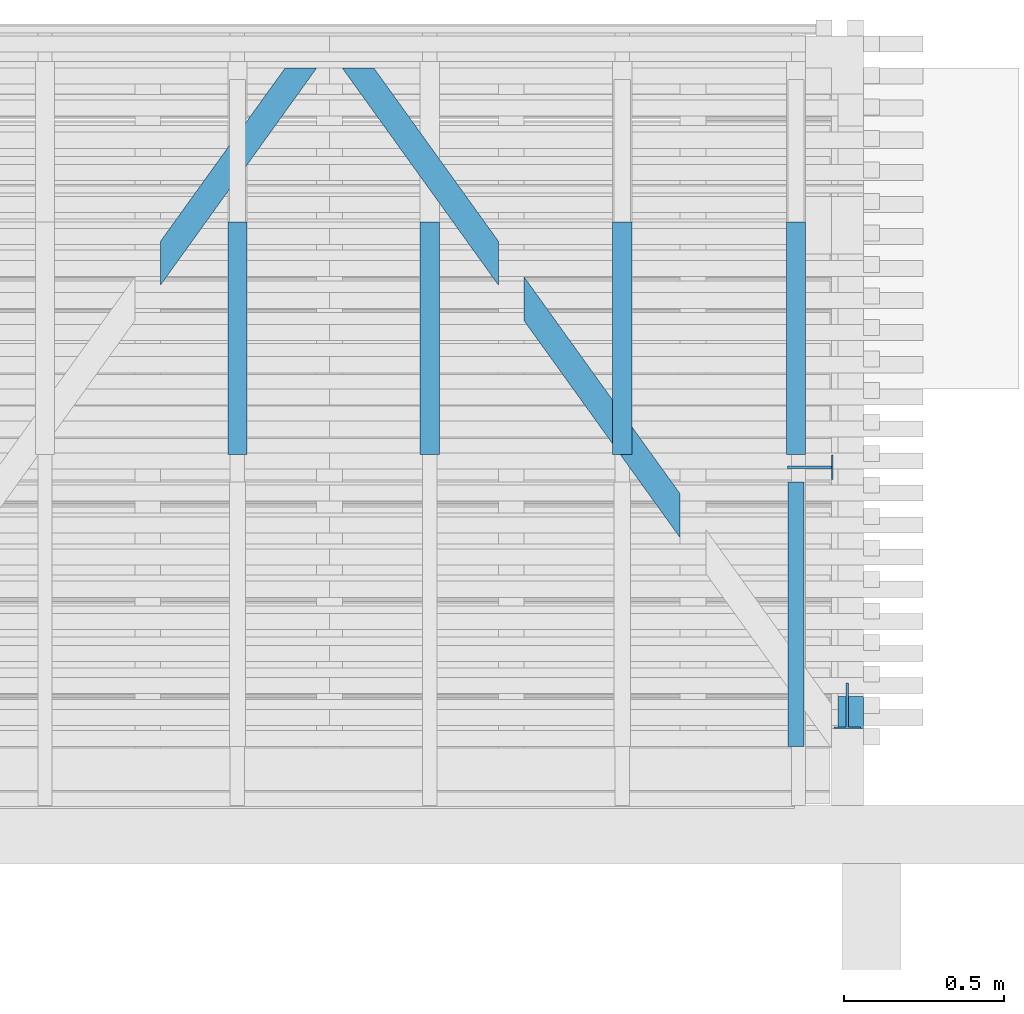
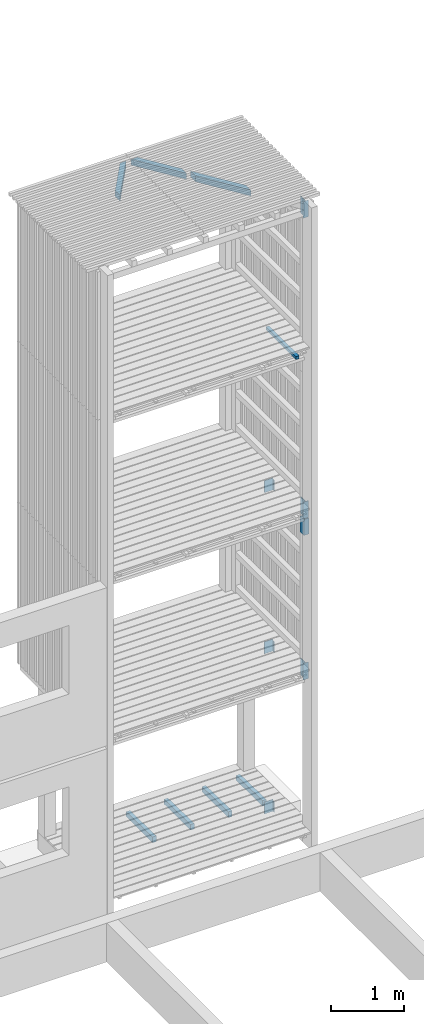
# One storey, part 169 of 182: 15 beams.
"""IFC2X3 building model written with IfcOpenShell, lengths in metres."""

import ifcopenshell
import ifcopenshell.guid

model = None  # the IFC model being written
_history = None  # IfcOwnerHistory: only IFC2X3 demands one
_inside = {}  # id of a spatial element -> (the spatial element, [elements in it])
_under = {}  # id of a project, library or spatial element -> (it, [spatial elements below it])
_declared = {}  # id of a project -> (the project, [libraries it declares])
_typed = {}  # id of a type object -> (the type object, [elements of that type])
_made_of = {}  # id of a material, layer set ... -> (it, [elements and type objects made of it])


def new_model(schema):
    """Start an empty IFC model of exactly this schema.

    Asked for "IFC4X3", IfcOpenShell would pick the latest addendum, in which some entities
    have other attributes; the version numbers below select the first issue.
    IFC2X3 requires an IfcOwnerHistory on every rooted entity: one is made here for all.
    """
    global model, _history
    if schema == "IFC4X3":
        model = ifcopenshell.file(schema_version=(4, 3, 0, 0))
    else:
        model = ifcopenshell.file(schema=schema)
    _inside.clear()
    _under.clear()
    _declared.clear()
    _typed.clear()
    _made_of.clear()
    _history = None
    if model.schema == "IFC2X3":
        org = make("IfcOrganization", Name="unknown")
        user = make(
            "IfcPersonAndOrganization",
            ThePerson=make("IfcPerson", FamilyName="unknown"),
            TheOrganization=org,
        )
        app = make(
            "IfcApplication",
            ApplicationDeveloper=org,
            Version="unknown",
            ApplicationFullName="unknown",
            ApplicationIdentifier="unknown",
        )
        _history = make(
            "IfcOwnerHistory",
            OwningUser=user,
            OwningApplication=app,
            ChangeAction="ADDED",
            CreationDate=0,
        )
    return model


def make(cls, **values):
    """One entity of the class cls with the attributes given. An attribute that is None is left unset."""
    return model.create_entity(
        cls, **{name: value for name, value in values.items() if value is not None}
    )


def rooted(cls, **values):
    """An entity with a GlobalId (a new one), such as an element, a storey or a relation."""
    return make(cls, GlobalId=ifcopenshell.guid.new(), OwnerHistory=_history, **values)


def si_unit(unit_type, name, prefix=None):
    """IfcSIUnit, for example si_unit("LENGTHUNIT", "METRE", prefix="MILLI")."""
    return make("IfcSIUnit", UnitType=unit_type, Prefix=prefix, Name=name)


def assignment(units):
    """IfcUnitAssignment: the units of a project."""
    return None if units is None else make("IfcUnitAssignment", Units=units)


def point(xyz):
    """IfcCartesianPoint."""
    return None if xyz is None else make("IfcCartesianPoint", Coordinates=xyz)


def direction(xyz):
    """IfcDirection."""
    return None if xyz is None else make("IfcDirection", DirectionRatios=xyz)


def frame(location, z_axis=None, x_axis=None):
    """IfcAxis2Placement3D, a coordinate frame: its origin and axes. An axis left out is left unset."""
    return make(
        "IfcAxis2Placement3D",
        Location=point(location),
        Axis=direction(z_axis),
        RefDirection=direction(x_axis),
    )


def origin():
    """The frame at (0, 0, 0) with its axes left unset."""
    return frame((0.0, 0.0, 0.0))


def place(relative_to, where):
    """IfcLocalPlacement: puts the frame where relative to a parent placement (None: the world)."""
    return make(
        "IfcLocalPlacement", PlacementRelTo=relative_to, RelativePlacement=where
    )


def context(
    kind, dimensions, precision=None, world=None, true_north=None, identifier=None
):
    """IfcGeometricRepresentationContext, for example the 3D "Model" context."""
    return make(
        "IfcGeometricRepresentationContext",
        ContextIdentifier=identifier,
        ContextType=kind,
        CoordinateSpaceDimension=dimensions,
        Precision=precision,
        WorldCoordinateSystem=world,
        TrueNorth=true_north,
    )


def project(units=None, contexts=None):
    """IfcProject with its units and contexts."""
    return rooted(
        "IfcProject",
        Name="project",
        RepresentationContexts=contexts,
        UnitsInContext=assignment(units),
    )


def spatial(cls, under=None, at=None, **own):
    """A site, building, storey or space (cls), placed at a placement, below another one or the project."""
    s = rooted(cls, ObjectPlacement=at, **own)
    if under is not None:
        _under.setdefault(under.id(), (under, []))[1].append(s)
    return s


def faces_of(points, faces, orient=None, outer=None):
    """IfcFace entities. A face is a list of loops; a loop is a list of indices into points, from 0.

    orient and outer hold one flag for each loop. By default every Orientation is true, the
    first loop of a face is its IfcFaceOuterBound and the others are IfcFaceBound.
    """
    made = []
    for i, loops in enumerate(faces):
        bounds = []
        for j, loop in enumerate(loops):
            is_outer = j == 0 if outer is None else outer[i][j]
            bounds.append(
                make(
                    "IfcFaceOuterBound" if is_outer else "IfcFaceBound",
                    Bound=make("IfcPolyLoop", Polygon=[points[k] for k in loop]),
                    Orientation=True if orient is None else orient[i][j],
                )
            )
        made.append(make("IfcFace", Bounds=bounds))
    return made


def faceted_brep(points, faces, orient=None, outer=None, voids=None):
    """IfcFacetedBrep: a solid bounded by flat faces; with voids (closed shells), ...WithVoids."""
    shared = [point(p) for p in points]
    hull = make("IfcClosedShell", CfsFaces=faces_of(shared, faces, orient, outer))
    if voids is None:
        return make("IfcFacetedBrep", Outer=hull)
    return make(
        "IfcFacetedBrepWithVoids",
        Outer=hull,
        Voids=[
            make(cls, CfsFaces=faces_of(shared, fs, o, b)) for cls, fs, o, b in voids
        ],
    )


def shape(context_of_items, identifier, shape_type, items):
    """IfcShapeRepresentation: the items that make up one representation, for example the "Body"."""
    return make(
        "IfcShapeRepresentation",
        ContextOfItems=context_of_items,
        RepresentationIdentifier=identifier,
        RepresentationType=shape_type,
        Items=items,
    )


def made_of(thing, what):
    """Note that an element or type object is made of a material, layer set ...; save() writes the relation."""
    if what is not None:
        _made_of.setdefault(what.id(), (what, []))[1].append(thing)
    return thing


def element(
    cls,
    number,
    at=None,
    inside=None,
    cuts=None,
    type_object=None,
    material=None,
    context=None,
    identifier="Body",
    shape_type=None,
    held_by="IfcProductDefinitionShape",
    body=None,
    shapes=None,
    **own,
):
    """One element of the class cls, such as IfcWall. Its Tag is "e" and its number.

    at: its placement. inside: the storey or other place that contains it. cuts: it is an
    opening in that element (IfcRelVoidsElement). A single representation is given by context,
    identifier, shape_type and body (its items); several are given by shapes. held_by: the class
    of the entity that holds the representations. save() writes the other relations.
    """
    e = rooted(cls, Tag="e%d" % number, ObjectPlacement=at, **own)
    if body is not None:
        shapes = [shape(context, identifier, shape_type, body)]
    if shapes is not None:
        e.Representation = make(held_by, Representations=shapes)
    if inside is not None:
        _inside.setdefault(inside.id(), (inside, []))[1].append(e)
    if cuts is not None:
        rooted(
            "IfcRelVoidsElement", RelatingBuildingElement=cuts, RelatedOpeningElement=e
        )
    if type_object is not None:
        _typed.setdefault(type_object.id(), (type_object, []))[1].append(e)
    return made_of(e, material)


def aggregate(whole, parts):
    """IfcRelAggregates: a whole, such as a stair, and the parts it consists of."""
    return rooted("IfcRelAggregates", RelatingObject=whole, RelatedObjects=parts)


def save(model, path):
    """Write the relations noted so far, then the file.

    IfcRelAggregates (storeys below a building ...), IfcRelContainedInSpatialStructure (elements
    in a storey), IfcRelDefinesByType, IfcRelAssociatesMaterial and IfcRelDeclares: one each for
    every whole, place, type object, material and project.
    """
    for whole, parts in _under.values():
        aggregate(whole, parts)
    for where, things in _inside.values():
        rooted(
            "IfcRelContainedInSpatialStructure",
            RelatedElements=things,
            RelatingStructure=where,
        )
    for kind, things in _typed.values():
        rooted("IfcRelDefinesByType", RelatedObjects=things, RelatingType=kind)
    for what, things in _made_of.values():
        rooted("IfcRelAssociatesMaterial", RelatedObjects=things, RelatingMaterial=what)
    for by, libraries in _declared.values():
        rooted("IfcRelDeclares", RelatingContext=by, RelatedDefinitions=libraries)
    model.write(path)


model = new_model("IFC2X3")

# Units and contexts
model_context = context("Model", 3, precision=1e-06, world=origin())
ifc_project = project(units=[si_unit("LENGTHUNIT", "METRE"), si_unit("PLANEANGLEUNIT", "RADIAN")], contexts=[model_context])

# Site, building, storey
site = spatial("IfcSite", under=ifc_project, CompositionType="ELEMENT")
building = spatial("IfcBuilding", under=site, CompositionType="ELEMENT")
storey = spatial("IfcBuildingStorey", under=building, Name="vs", CompositionType="ELEMENT", Elevation=-0.85)

# Beams
placement = place(None, origin())
beam_1_placement = place(placement, frame((24.422999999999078, 11.565077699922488, -0.091949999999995), z_axis=(0.0, 0.0, 1.0), x_axis=(0.0, 1.0, 0.0)))
element("IfcBeam", 1, at=beam_1_placement, inside=storey, Name="Solive", context=model_context, shape_type="Brep", body=[
    faceted_brep([(0.0, -0.029999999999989, -0.04805), (0.0, 0.029999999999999, -0.04805), (0.725000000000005, 0.029999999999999, -0.04805), (0.725000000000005, -0.030000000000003, -0.04805), (0.725000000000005, -0.029999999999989, 0.033549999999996), (0.0, -0.029999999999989, 0.048049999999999), (0.0, -0.029999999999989, -0.04805), (0.725000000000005, -0.030000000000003, -0.04805), (0.0, -0.029999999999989, 0.048049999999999), (0.725000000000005, -0.029999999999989, 0.033549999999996), (0.725000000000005, 0.029999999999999, 0.033549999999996), (0.0, 0.029999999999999, 0.048049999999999), (0.0, -0.029999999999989, 0.048049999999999), (0.0, 0.029999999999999, 0.048049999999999), (0.0, 0.029999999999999, -0.04805), (0.0, -0.029999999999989, -0.04805), (0.0, 0.029999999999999, -0.04805), (0.0, 0.029999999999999, 0.048049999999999), (0.725000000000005, 0.029999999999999, 0.033549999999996), (0.725000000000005, 0.029999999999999, -0.04805), (0.725000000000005, -0.029999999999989, 0.033549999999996), (0.725000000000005, -0.030000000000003, -0.04805), (0.725000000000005, 0.029999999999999, -0.04805), (0.725000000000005, 0.029999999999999, 0.033549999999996)], [[[0, 1, 2, 3]], [[4, 5, 6, 7]], [[8, 9, 10, 11]], [[12, 13, 14, 15]], [[16, 17, 18, 19]], [[20, 21, 22, 23]]]),
])
beam_2_placement = place(placement, frame((24.1508617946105, 12.116889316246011, 10.404999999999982), z_axis=(0.0, 0.0, 1.0), x_axis=(0.583951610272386, 0.811788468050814, 0.0)))
element("IfcBeam", 2, at=beam_2_placement, inside=storey, Name="Support bardage", context=model_context, shape_type="Brep", body=[
    faceted_brep([(0.775855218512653, 0.039999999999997, -0.050000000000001), (0.775855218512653, 0.039999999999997, 0.050000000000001), (0.833402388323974, -0.040000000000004, 0.050000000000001), (0.833402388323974, -0.040000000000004, -0.049999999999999), (0.833402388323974, -0.040000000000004, -0.049999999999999), (0.833402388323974, -0.040000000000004, 0.050000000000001), (4e-15, -0.040000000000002, 0.050000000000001), (4e-15, -0.040000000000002, -0.050000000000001), (0.775855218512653, 0.039999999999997, -0.050000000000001), (0.833402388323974, -0.040000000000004, -0.049999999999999), (4e-15, -0.040000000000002, -0.050000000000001), (0.111213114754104, 0.039999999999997, -0.050000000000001), (0.775855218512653, 0.039999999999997, 0.050000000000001), (0.775855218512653, 0.039999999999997, -0.050000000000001), (0.111213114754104, 0.039999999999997, -0.050000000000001), (0.111213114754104, 0.039999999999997, 0.050000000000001), (0.833402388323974, -0.040000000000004, 0.050000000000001), (0.775855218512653, 0.039999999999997, 0.050000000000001), (0.111213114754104, 0.039999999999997, 0.050000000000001), (4e-15, -0.040000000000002, 0.050000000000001), (0.111213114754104, 0.039999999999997, -0.050000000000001), (4e-15, -0.040000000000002, -0.050000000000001), (4e-15, -0.040000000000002, 0.050000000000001), (0.111213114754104, 0.039999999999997, 0.050000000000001)], [[[0, 1, 2, 3]], [[4, 5, 6, 7]], [[8, 9, 10, 11]], [[12, 13, 14, 15]], [[16, 17, 18, 19]], [[20, 21, 22, 23]]]),
])
beam_3_placement = place(placement, frame((25.622999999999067, 11.565077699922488, -0.091949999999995), z_axis=(0.0, 0.0, 1.0), x_axis=(0.0, 1.0, 0.0)))
element("IfcBeam", 3, at=beam_3_placement, inside=storey, Name="Solive", context=model_context, shape_type="Brep", body=[
    faceted_brep([(0.0, -0.029999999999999, -0.04805), (0.0, 0.030000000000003, -0.04805), (0.725000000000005, 0.030000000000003, -0.04805), (0.725000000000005, -0.029999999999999, -0.04805), (0.725000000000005, -0.029999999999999, 0.033549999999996), (0.0, -0.029999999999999, 0.048049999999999), (0.0, -0.029999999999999, -0.04805), (0.725000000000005, -0.029999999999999, -0.04805), (0.0, -0.029999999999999, 0.048049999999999), (0.725000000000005, -0.029999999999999, 0.033549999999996), (0.725000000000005, 0.030000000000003, 0.033549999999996), (0.0, 0.030000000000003, 0.048049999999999), (0.0, -0.029999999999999, 0.048049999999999), (0.0, 0.030000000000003, 0.048049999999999), (0.0, 0.030000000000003, -0.04805), (0.0, -0.029999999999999, -0.04805), (0.0, 0.030000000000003, -0.04805), (0.0, 0.030000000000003, 0.048049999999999), (0.725000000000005, 0.030000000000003, 0.033549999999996), (0.725000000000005, 0.030000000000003, -0.04805), (0.725000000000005, -0.029999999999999, 0.033549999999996), (0.725000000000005, -0.029999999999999, -0.04805), (0.725000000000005, 0.030000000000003, -0.04805), (0.725000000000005, 0.030000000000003, 0.033549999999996)], [[[0, 1, 2, 3]], [[4, 5, 6, 7]], [[8, 9, 10, 11]], [[12, 13, 14, 15]], [[16, 17, 18, 19]], [[20, 21, 22, 23]]]),
])
beam_4_placement = place(placement, frame((26.16499999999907, 11.565077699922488, -0.091949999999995), z_axis=(0.0, 0.0, 1.0), x_axis=(0.0, 1.0, 0.0)))
element("IfcBeam", 4, at=beam_4_placement, inside=storey, Name="Solive", context=model_context, shape_type="Brep", body=[
    faceted_brep([(0.0, -0.03, -0.04805), (0.0, 0.030000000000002, -0.04805), (0.725000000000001, 0.030000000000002, -0.04805), (0.725000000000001, -0.03, -0.04805), (0.725000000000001, -0.03, 0.033549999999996), (0.0, -0.03, 0.048049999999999), (0.0, -0.03, -0.04805), (0.725000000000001, -0.03, -0.04805), (0.0, -0.03, 0.048049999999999), (0.725000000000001, -0.03, 0.033549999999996), (0.725000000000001, 0.030000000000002, 0.033549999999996), (0.0, 0.030000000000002, 0.048049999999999), (0.0, -0.03, 0.048049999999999), (0.0, 0.030000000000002, 0.048049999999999), (0.0, 0.030000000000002, -0.04805), (0.0, -0.03, -0.04805), (0.0, 0.030000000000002, -0.04805), (0.0, 0.030000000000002, 0.048049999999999), (0.725000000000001, 0.030000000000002, 0.033549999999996), (0.725000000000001, 0.030000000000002, -0.04805), (0.725000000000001, -0.03, 0.033549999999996), (0.725000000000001, -0.03, -0.04805), (0.725000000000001, 0.030000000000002, -0.04805), (0.725000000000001, 0.030000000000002, 0.033549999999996)], [[[0, 1, 2, 3]], [[4, 5, 6, 7]], [[8, 9, 10, 11]], [[12, 13, 14, 15]], [[16, 17, 18, 19]], [[20, 21, 22, 23]]]),
])
beam_5_placement = place(placement, frame((25.022999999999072, 11.565077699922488, -0.091949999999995), z_axis=(0.0, 0.0, 1.0), x_axis=(0.0, 1.0, 0.0)))
element("IfcBeam", 5, at=beam_5_placement, inside=storey, Name="Solive", context=model_context, shape_type="Brep", body=[
    faceted_brep([(0.0, -0.030000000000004, -0.04805), (0.0, 0.029999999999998, -0.04805), (0.725000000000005, 0.029999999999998, -0.04805), (0.725000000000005, -0.030000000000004, -0.04805), (0.725000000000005, -0.030000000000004, 0.033549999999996), (0.0, -0.030000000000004, 0.048049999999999), (0.0, -0.030000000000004, -0.04805), (0.725000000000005, -0.030000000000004, -0.04805), (0.0, -0.030000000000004, 0.048049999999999), (0.725000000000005, -0.030000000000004, 0.033549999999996), (0.725000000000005, 0.029999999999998, 0.033549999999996), (0.0, 0.029999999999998, 0.048049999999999), (0.0, -0.030000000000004, 0.048049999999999), (0.0, 0.029999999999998, 0.048049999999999), (0.0, 0.029999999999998, -0.04805), (0.0, -0.030000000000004, -0.04805), (0.0, 0.029999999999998, -0.04805), (0.0, 0.029999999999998, 0.048049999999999), (0.725000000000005, 0.029999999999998, 0.033549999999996), (0.725000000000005, 0.029999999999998, -0.04805), (0.725000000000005, -0.030000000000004, 0.033549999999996), (0.725000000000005, -0.030000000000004, -0.04805), (0.725000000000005, 0.029999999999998, -0.04805), (0.725000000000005, 0.029999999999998, 0.033549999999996)], [[[0, 1, 2, 3]], [[4, 5, 6, 7]], [[8, 9, 10, 11]], [[12, 13, 14, 15]], [[16, 17, 18, 19]], [[20, 21, 22, 23]]]),
])
beam_6_placement = place(placement, frame((26.283999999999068, 10.781077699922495, 2.579999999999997), z_axis=(0.0, 0.0, 1.0), x_axis=(1.0, 0.0, 0.0)))
element("IfcBeam", 6, at=beam_6_placement, inside=storey, Name="Contre-usinage", context=model_context, shape_type="Brep", body=[
    faceted_brep([(0.037000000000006, -0.065999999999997, -0.14), (0.037000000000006, 0.071, -0.14), (0.045000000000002, 0.071, -0.14), (0.045000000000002, -0.065999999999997, -0.14), (0.082000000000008, -0.066000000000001, -0.14), (0.082000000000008, -0.071, -0.14), (0.0, -0.071, -0.14), (0.0, -0.066000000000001, -0.14), (0.045000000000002, 0.071, -0.14), (0.037000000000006, 0.071, -0.14), (0.037000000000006, 0.071, 0.14), (0.045000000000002, 0.071, 0.14), (0.045000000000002, -0.066000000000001, 0.14), (0.045000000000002, -0.065999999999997, -0.14), (0.045000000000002, 0.071, -0.14), (0.045000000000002, 0.071, 0.14), (0.082000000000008, -0.066000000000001, -0.14), (0.045000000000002, -0.065999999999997, -0.14), (0.045000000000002, -0.066000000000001, 0.14), (0.082000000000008, -0.066000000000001, 0.14), (0.082000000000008, -0.071, -0.14), (0.082000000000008, -0.066000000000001, -0.14), (0.082000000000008, -0.066000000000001, 0.14), (0.082000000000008, -0.071, 0.14), (0.0, -0.071, -0.14), (0.082000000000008, -0.071, -0.14), (0.082000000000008, -0.071, 0.14), (0.0, -0.071, 0.14), (0.0, -0.066000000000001, -0.14), (0.0, -0.071, -0.14), (0.0, -0.071, 0.14), (0.0, -0.066000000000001, 0.14), (0.037000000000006, -0.065999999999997, -0.14), (0.0, -0.066000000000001, -0.14), (0.0, -0.066000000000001, 0.14), (0.037000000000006, -0.066000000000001, 0.14), (0.037000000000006, 0.071, 0.14), (0.037000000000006, 0.071, -0.14), (0.037000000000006, -0.065999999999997, -0.14), (0.037000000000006, -0.066000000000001, 0.14), (0.082000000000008, -0.066000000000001, 0.14), (0.045000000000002, -0.066000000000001, 0.14), (0.045000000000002, 0.071, 0.14), (0.037000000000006, 0.071, 0.14), (0.037000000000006, -0.066000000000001, 0.14), (0.0, -0.066000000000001, 0.14), (0.0, -0.071, 0.14), (0.082000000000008, -0.071, 0.14)], [[[0, 1, 2, 3, 4, 5, 6, 7]], [[8, 9, 10, 11]], [[12, 13, 14, 15]], [[16, 17, 18, 19]], [[20, 21, 22, 23]], [[24, 25, 26, 27]], [[28, 29, 30, 31]], [[32, 33, 34, 35]], [[36, 37, 38, 39]], [[40, 41, 42, 43, 44, 45, 46, 47]]]),
])
beam_7_placement = place(placement, frame((26.283999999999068, 10.781077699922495, 10.314999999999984), z_axis=(0.0, 0.0, 1.0), x_axis=(1.0, 0.0, 0.0)))
element("IfcBeam", 7, at=beam_7_placement, inside=storey, Name="Contre-usinage", context=model_context, shape_type="Brep", body=[
    faceted_brep([(0.037000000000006, -0.065999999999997, -0.140000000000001), (0.037000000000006, 0.071, -0.140000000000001), (0.045000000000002, 0.071, -0.140000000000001), (0.045000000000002, -0.065999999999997, -0.140000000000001), (0.082000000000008, -0.066000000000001, -0.140000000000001), (0.082000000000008, -0.071, -0.140000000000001), (0.0, -0.071, -0.140000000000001), (0.0, -0.066000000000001, -0.140000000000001), (0.045000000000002, 0.071, -0.140000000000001), (0.037000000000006, 0.071, -0.140000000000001), (0.037000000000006, 0.071, 0.140000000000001), (0.045000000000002, 0.071, 0.140000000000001), (0.045000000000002, -0.066000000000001, 0.140000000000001), (0.045000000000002, -0.065999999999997, -0.140000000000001), (0.045000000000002, 0.071, -0.140000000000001), (0.045000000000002, 0.071, 0.140000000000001), (0.082000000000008, -0.066000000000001, -0.140000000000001), (0.045000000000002, -0.065999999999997, -0.140000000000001), (0.045000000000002, -0.066000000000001, 0.140000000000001), (0.082000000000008, -0.066000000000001, 0.140000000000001), (0.082000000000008, -0.071, -0.140000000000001), (0.082000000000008, -0.066000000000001, -0.140000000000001), (0.082000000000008, -0.066000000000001, 0.140000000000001), (0.082000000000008, -0.071, 0.140000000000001), (0.0, -0.071, -0.140000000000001), (0.082000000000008, -0.071, -0.140000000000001), (0.082000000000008, -0.071, 0.140000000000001), (0.0, -0.071, 0.140000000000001), (0.0, -0.066000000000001, -0.140000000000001), (0.0, -0.071, -0.140000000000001), (0.0, -0.071, 0.140000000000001), (0.0, -0.066000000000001, 0.140000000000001), (0.037000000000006, -0.065999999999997, -0.140000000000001), (0.0, -0.066000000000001, -0.140000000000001), (0.0, -0.066000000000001, 0.140000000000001), (0.037000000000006, -0.066000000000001, 0.140000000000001), (0.037000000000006, 0.071, 0.140000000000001), (0.037000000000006, 0.071, -0.140000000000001), (0.037000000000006, -0.065999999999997, -0.140000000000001), (0.037000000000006, -0.066000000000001, 0.140000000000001), (0.082000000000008, -0.066000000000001, 0.140000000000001), (0.045000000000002, -0.066000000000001, 0.140000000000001), (0.045000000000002, 0.071, 0.140000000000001), (0.037000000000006, 0.071, 0.140000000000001), (0.037000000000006, -0.066000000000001, 0.140000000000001), (0.0, -0.066000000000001, 0.140000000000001), (0.0, -0.071, 0.140000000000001), (0.082000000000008, -0.071, 0.140000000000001)], [[[0, 1, 2, 3, 4, 5, 6, 7]], [[8, 9, 10, 11]], [[12, 13, 14, 15]], [[16, 17, 18, 19]], [[20, 21, 22, 23]], [[24, 25, 26, 27]], [[28, 29, 30, 31]], [[32, 33, 34, 35]], [[36, 37, 38, 39]], [[40, 41, 42, 43, 44, 45, 46, 47]]]),
])
beam_8_placement = place(placement, frame((26.16499999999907, 10.655077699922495, 7.917999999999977), z_axis=(0.0, 0.0, 1.0), x_axis=(1.8e-14, 1.0, 0.0)))
element("IfcBeam", 8, at=beam_8_placement, inside=storey, Name="Calage", context=model_context, shape_type="Brep", body=[
    faceted_brep([(0.0, -0.025000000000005, 0.024999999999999), (0.824999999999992, -0.02499999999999, 0.024999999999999), (0.824999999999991, 0.025000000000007, 0.024999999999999), (-1e-15, 0.024999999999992, 0.024999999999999), (-1e-15, 0.024999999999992, 0.024999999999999), (0.824999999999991, 0.025000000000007, 0.024999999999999), (0.824999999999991, 0.025000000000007, -0.025), (-1e-15, 0.024999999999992, -0.025), (0.824999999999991, 0.025000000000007, 0.024999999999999), (0.824999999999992, -0.02499999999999, 0.024999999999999), (0.824999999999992, -0.02499999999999, -0.025), (0.824999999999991, 0.025000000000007, -0.025), (0.0, -0.025000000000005, -0.025), (0.824999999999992, -0.02499999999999, -0.025), (0.824999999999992, -0.02499999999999, 0.024999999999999), (0.0, -0.025000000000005, 0.024999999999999), (-1e-15, 0.024999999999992, -0.025), (0.824999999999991, 0.025000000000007, -0.025), (0.824999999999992, -0.02499999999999, -0.025), (0.0, -0.025000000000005, -0.025), (-1e-15, 0.024999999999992, 0.024999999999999), (-1e-15, 0.024999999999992, -0.025), (0.0, -0.025000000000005, -0.025), (0.0, -0.025000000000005, 0.024999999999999)], [[[0, 1, 2, 3]], [[4, 5, 6, 7]], [[8, 9, 10, 11]], [[12, 13, 14, 15]], [[16, 17, 18, 19]], [[20, 21, 22, 23]]]),
])
beam_9_placement = place(placement, frame((26.334999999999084, 10.760077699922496, 4.85796194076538), z_axis=(0.0, 1.0, 0.0), x_axis=(0.0, 0.0, 1.0)))
element("IfcBeam", 9, at=beam_9_placement, inside=storey, Name="Support bardage", context=model_context, shape_type="Brep", body=[
    faceted_brep([(0.267038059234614, 0.039999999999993, -0.050000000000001), (0.267038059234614, 0.039999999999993, 0.05), (0.267038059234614, -0.04000000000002, 0.05), (0.267038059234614, -0.04000000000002, -0.050000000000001), (0.267038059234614, 0.039999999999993, -0.050000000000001), (0.267038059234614, -0.04000000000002, -0.050000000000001), (0.0, -0.04000000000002, -0.050000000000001), (0.0, 0.039999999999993, -0.050000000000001), (0.267038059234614, 0.039999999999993, 0.05), (0.267038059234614, 0.039999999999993, -0.050000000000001), (0.0, 0.039999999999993, -0.050000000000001), (0.0, 0.039999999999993, 0.05), (0.0, -0.04000000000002, -0.050000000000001), (0.267038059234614, -0.04000000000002, -0.050000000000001), (0.267038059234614, -0.04000000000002, 0.05), (0.0, -0.04000000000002, 0.05), (0.0, -0.04000000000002, 0.05), (0.267038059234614, -0.04000000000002, 0.05), (0.267038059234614, 0.039999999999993, 0.05), (0.0, 0.039999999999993, 0.05), (0.0, -0.04000000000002, -0.050000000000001), (0.0, -0.04000000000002, 0.05), (0.0, 0.039999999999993, 0.05), (0.0, 0.039999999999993, -0.050000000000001)], [[[0, 1, 2, 3]], [[4, 5, 6, 7]], [[8, 9, 10, 11]], [[12, 13, 14, 15]], [[16, 17, 18, 19]], [[20, 21, 22, 23]]]),
])
beam_10_placement = place(placement, frame((25.26913820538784, 12.116889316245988, 10.404999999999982), z_axis=(0.0, 0.0, 1.0), x_axis=(-0.583951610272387, 0.811788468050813, 0.0)))
element("IfcBeam", 10, at=beam_10_placement, inside=storey, Name="Support bardage", context=model_context, shape_type="Brep", body=[
    faceted_brep([(0.0, 0.040000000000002, 0.050000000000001), (0.0, 0.040000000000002, -0.050000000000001), (0.1112131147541, -0.039999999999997, -0.050000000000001), (0.1112131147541, -0.039999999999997, 0.050000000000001), (0.775855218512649, -0.039999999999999, 0.050000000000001), (0.83340238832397, 0.040000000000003, 0.050000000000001), (0.0, 0.040000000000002, 0.050000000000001), (0.1112131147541, -0.039999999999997, 0.050000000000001), (0.83340238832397, 0.040000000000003, -0.049999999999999), (0.775855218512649, -0.039999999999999, -0.050000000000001), (0.1112131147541, -0.039999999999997, -0.050000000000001), (0.0, 0.040000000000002, -0.050000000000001), (0.0, 0.040000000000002, 0.050000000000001), (0.83340238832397, 0.040000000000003, 0.050000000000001), (0.83340238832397, 0.040000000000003, -0.049999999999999), (0.0, 0.040000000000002, -0.050000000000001), (0.83340238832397, 0.040000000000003, 0.050000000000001), (0.775855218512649, -0.039999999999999, 0.050000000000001), (0.775855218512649, -0.039999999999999, -0.050000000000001), (0.83340238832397, 0.040000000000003, -0.049999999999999), (0.1112131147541, -0.039999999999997, -0.050000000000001), (0.775855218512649, -0.039999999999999, -0.050000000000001), (0.775855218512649, -0.039999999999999, 0.050000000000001), (0.1112131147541, -0.039999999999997, 0.050000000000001)], [[[0, 1, 2, 3]], [[4, 5, 6, 7]], [[8, 9, 10, 11]], [[12, 13, 14, 15]], [[16, 17, 18, 19]], [[20, 21, 22, 23]]]),
])
beam_11_placement = place(placement, frame((26.208999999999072, 11.525077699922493, 5.139999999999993), z_axis=(-1.0, 0.0, 0.0), x_axis=(0.0, 0.0, 1.0)))
element("IfcBeam", 11, at=beam_11_placement, inside=storey, Name="Contre-usinage", context=model_context, shape_type="Brep", body=[
    faceted_brep([(0.2, 0.003999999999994, -0.065999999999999), (0.2, -0.004000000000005, -0.065999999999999), (0.174999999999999, -0.004000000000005, -0.065999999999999), (0.174999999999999, 0.003999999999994, -0.065999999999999), (0.0, 0.003999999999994, -0.065999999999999), (0.174999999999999, 0.003999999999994, -0.065999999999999), (0.174999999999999, 0.037999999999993, -0.065999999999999), (0.0, 0.037999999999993, -0.065999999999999), (0.0, -0.038000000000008, -0.065999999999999), (0.174999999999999, -0.038000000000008, -0.065999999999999), (0.174999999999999, -0.004000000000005, -0.065999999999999), (0.0, -0.004000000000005, -0.065999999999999), (0.0, -0.004000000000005, 0.071000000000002), (0.0, -0.004000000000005, -0.065999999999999), (0.174999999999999, -0.004000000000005, -0.065999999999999), (0.2, -0.004000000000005, -0.065999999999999), (0.2, -0.004000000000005, 0.071000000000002), (0.0, 0.003999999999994, 0.071000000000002), (0.0, -0.004000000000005, 0.071000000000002), (0.2, -0.004000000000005, 0.071000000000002), (0.2, 0.003999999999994, 0.071000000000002), (0.0, 0.037999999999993, -0.070999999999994), (0.174999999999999, 0.037999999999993, -0.070999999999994), (0.174999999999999, -0.038000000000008, -0.070999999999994), (0.0, -0.038000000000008, -0.070999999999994), (0.174999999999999, -0.038000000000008, -0.070999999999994), (0.174999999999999, 0.037999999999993, -0.070999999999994), (0.174999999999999, 0.037999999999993, -0.065999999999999), (0.174999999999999, 0.003999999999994, -0.065999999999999), (0.174999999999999, -0.004000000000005, -0.065999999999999), (0.174999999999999, -0.038000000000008, -0.065999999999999), (0.2, 0.003999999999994, -0.065999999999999), (0.174999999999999, 0.003999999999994, -0.065999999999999), (0.0, 0.003999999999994, -0.065999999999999), (0.0, 0.003999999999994, 0.071000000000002), (0.2, 0.003999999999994, 0.071000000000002), (0.2, 0.003999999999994, 0.071000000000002), (0.2, -0.004000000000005, 0.071000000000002), (0.2, -0.004000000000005, -0.065999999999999), (0.2, 0.003999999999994, -0.065999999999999), (0.0, 0.037999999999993, -0.065999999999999), (0.174999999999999, 0.037999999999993, -0.065999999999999), (0.174999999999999, 0.037999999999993, -0.070999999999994), (0.0, 0.037999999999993, -0.070999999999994), (0.0, 0.037999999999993, -0.070999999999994), (0.0, -0.038000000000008, -0.070999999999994), (0.0, -0.038000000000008, -0.065999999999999), (0.0, -0.004000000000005, -0.065999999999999), (0.0, -0.004000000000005, 0.071000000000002), (0.0, 0.003999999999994, 0.071000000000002), (0.0, 0.003999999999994, -0.065999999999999), (0.0, 0.037999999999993, -0.065999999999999), (0.0, -0.038000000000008, -0.065999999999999), (0.0, -0.038000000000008, -0.070999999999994), (0.174999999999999, -0.038000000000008, -0.070999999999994), (0.174999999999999, -0.038000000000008, -0.065999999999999)], [[[0, 1, 2, 3]], [[4, 5, 6, 7]], [[8, 9, 10, 11]], [[12, 13, 14, 15, 16]], [[17, 18, 19, 20]], [[21, 22, 23, 24]], [[25, 26, 27, 28, 29, 30]], [[31, 32, 33, 34, 35]], [[36, 37, 38, 39]], [[40, 41, 42, 43]], [[44, 45, 46, 47, 48, 49, 50, 51]], [[52, 53, 54, 55]]]),
])
beam_12_placement = place(placement, frame((26.208999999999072, 11.525077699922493, 2.439999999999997), z_axis=(-1.0, 0.0, 0.0), x_axis=(0.0, 0.0, 1.0)))
element("IfcBeam", 12, at=beam_12_placement, inside=storey, Name="Contre-usinage", context=model_context, shape_type="Brep", body=[
    faceted_brep([(0.2, 0.003999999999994, -0.065999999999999), (0.2, -0.004000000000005, -0.065999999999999), (0.175, -0.004000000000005, -0.065999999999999), (0.175, 0.003999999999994, -0.065999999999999), (0.0, 0.003999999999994, -0.065999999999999), (0.175, 0.003999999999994, -0.065999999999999), (0.175, 0.037999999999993, -0.065999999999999), (0.0, 0.037999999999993, -0.065999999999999), (0.0, -0.038000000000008, -0.065999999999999), (0.175, -0.038000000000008, -0.065999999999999), (0.175, -0.004000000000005, -0.065999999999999), (0.0, -0.004000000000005, -0.065999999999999), (0.0, -0.004000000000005, 0.071000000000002), (0.0, -0.004000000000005, -0.065999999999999), (0.175, -0.004000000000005, -0.065999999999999), (0.2, -0.004000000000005, -0.065999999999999), (0.2, -0.004000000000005, 0.071000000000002), (0.0, 0.003999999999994, 0.071000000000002), (0.0, -0.004000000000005, 0.071000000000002), (0.2, -0.004000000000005, 0.071000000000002), (0.2, 0.003999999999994, 0.071000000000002), (0.0, 0.037999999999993, -0.070999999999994), (0.175, 0.037999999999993, -0.070999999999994), (0.175, -0.038000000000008, -0.070999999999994), (0.0, -0.038000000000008, -0.070999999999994), (0.175, -0.038000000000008, -0.070999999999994), (0.175, 0.037999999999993, -0.070999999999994), (0.175, 0.037999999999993, -0.065999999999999), (0.175, 0.003999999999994, -0.065999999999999), (0.175, -0.004000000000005, -0.065999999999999), (0.175, -0.038000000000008, -0.065999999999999), (0.2, 0.003999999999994, -0.065999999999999), (0.175, 0.003999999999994, -0.065999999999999), (0.0, 0.003999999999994, -0.065999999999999), (0.0, 0.003999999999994, 0.071000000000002), (0.2, 0.003999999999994, 0.071000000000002), (0.2, 0.003999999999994, 0.071000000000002), (0.2, -0.004000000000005, 0.071000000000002), (0.2, -0.004000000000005, -0.065999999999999), (0.2, 0.003999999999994, -0.065999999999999), (0.0, 0.037999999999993, -0.065999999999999), (0.175, 0.037999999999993, -0.065999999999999), (0.175, 0.037999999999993, -0.070999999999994), (0.0, 0.037999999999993, -0.070999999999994), (0.0, 0.037999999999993, -0.070999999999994), (0.0, -0.038000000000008, -0.070999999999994), (0.0, -0.038000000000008, -0.065999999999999), (0.0, -0.004000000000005, -0.065999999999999), (0.0, -0.004000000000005, 0.071000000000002), (0.0, 0.003999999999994, 0.071000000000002), (0.0, 0.003999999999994, -0.065999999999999), (0.0, 0.037999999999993, -0.065999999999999), (0.0, -0.038000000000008, -0.065999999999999), (0.0, -0.038000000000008, -0.070999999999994), (0.175, -0.038000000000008, -0.070999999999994), (0.175, -0.038000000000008, -0.065999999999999)], [[[0, 1, 2, 3]], [[4, 5, 6, 7]], [[8, 9, 10, 11]], [[12, 13, 14, 15, 16]], [[17, 18, 19, 20]], [[21, 22, 23, 24]], [[25, 26, 27, 28, 29, 30]], [[31, 32, 33, 34, 35]], [[36, 37, 38, 39]], [[40, 41, 42, 43]], [[44, 45, 46, 47, 48, 49, 50, 51]], [[52, 53, 54, 55]]]),
])
beam_13_placement = place(placement, frame((26.208999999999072, 11.525077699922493, -0.243899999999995), z_axis=(-1.0, 0.0, 0.0), x_axis=(0.0, 0.0, 1.0)))
element("IfcBeam", 13, at=beam_13_placement, inside=storey, Name="Contre-usinage", context=model_context, shape_type="Brep", body=[
    faceted_brep([(0.2, 0.003999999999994, -0.065999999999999), (0.2, -0.004000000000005, -0.065999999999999), (0.175, -0.004000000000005, -0.065999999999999), (0.175, 0.003999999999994, -0.065999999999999), (0.0, 0.003999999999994, -0.065999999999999), (0.175, 0.003999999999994, -0.065999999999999), (0.175, 0.037999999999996, -0.065999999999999), (0.0, 0.037999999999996, -0.065999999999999), (0.0, -0.038000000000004, -0.065999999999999), (0.175, -0.038000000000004, -0.065999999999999), (0.175, -0.004000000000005, -0.065999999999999), (0.0, -0.004000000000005, -0.065999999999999), (0.0, -0.004000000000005, 0.071000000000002), (0.0, -0.004000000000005, -0.065999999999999), (0.175, -0.004000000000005, -0.065999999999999), (0.2, -0.004000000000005, -0.065999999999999), (0.2, -0.004000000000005, 0.071000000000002), (0.0, 0.003999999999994, 0.071000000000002), (0.0, -0.004000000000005, 0.071000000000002), (0.2, -0.004000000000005, 0.071000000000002), (0.2, 0.003999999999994, 0.071000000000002), (0.0, 0.037999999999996, -0.071000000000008), (0.175, 0.037999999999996, -0.071000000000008), (0.175, -0.038000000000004, -0.071000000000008), (0.0, -0.038000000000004, -0.071000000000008), (0.2, 0.003999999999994, 0.071000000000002), (0.2, -0.004000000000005, 0.071000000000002), (0.2, -0.004000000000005, -0.065999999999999), (0.2, 0.003999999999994, -0.065999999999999), (0.2, 0.003999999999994, -0.065999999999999), (0.175, 0.003999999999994, -0.065999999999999), (0.0, 0.003999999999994, -0.065999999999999), (0.0, 0.003999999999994, 0.071000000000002), (0.2, 0.003999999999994, 0.071000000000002), (0.175, -0.038000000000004, -0.071000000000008), (0.175, 0.037999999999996, -0.071000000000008), (0.175, 0.037999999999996, -0.065999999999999), (0.175, 0.003999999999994, -0.065999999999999), (0.175, -0.004000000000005, -0.065999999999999), (0.175, -0.038000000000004, -0.065999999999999), (0.0, 0.037999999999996, -0.071000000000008), (0.0, -0.038000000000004, -0.071000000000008), (0.0, -0.038000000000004, -0.065999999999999), (0.0, -0.004000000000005, -0.065999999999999), (0.0, -0.004000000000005, 0.071000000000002), (0.0, 0.003999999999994, 0.071000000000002), (0.0, 0.003999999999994, -0.065999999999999), (0.0, 0.037999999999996, -0.065999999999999), (0.0, 0.037999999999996, -0.071000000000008), (0.0, 0.037999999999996, -0.065999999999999), (0.175, 0.037999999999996, -0.065999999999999), (0.175, 0.037999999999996, -0.071000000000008), (0.0, -0.038000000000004, -0.065999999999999), (0.0, -0.038000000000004, -0.071000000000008), (0.175, -0.038000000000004, -0.071000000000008), (0.175, -0.038000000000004, -0.065999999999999)], [[[0, 1, 2, 3]], [[4, 5, 6, 7]], [[8, 9, 10, 11]], [[12, 13, 14, 15, 16]], [[17, 18, 19, 20]], [[21, 22, 23, 24]], [[25, 26, 27, 28]], [[29, 30, 31, 32, 33]], [[34, 35, 36, 37, 38, 39]], [[40, 41, 42, 43, 44, 45, 46, 47]], [[48, 49, 50, 51]], [[52, 53, 54, 55]]]),
])
beam_14_placement = place(placement, frame((25.83580487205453, 11.329129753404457, 10.404999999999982), z_axis=(0.0, 0.0, 1.0), x_axis=(-0.583951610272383, 0.811788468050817, 0.0)))
element("IfcBeam", 14, at=beam_14_placement, inside=storey, Name="Support bardage", context=model_context, shape_type="Brep", body=[
    faceted_brep([(0.111213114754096, -0.040000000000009, -0.050000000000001), (0.111213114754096, -0.040000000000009, 0.050000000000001), (-1e-14, 0.039999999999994, 0.050000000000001), (-1e-14, 0.039999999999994, -0.050000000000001), (0.833402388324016, 0.040000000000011, -0.050000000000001), (0.94461550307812, -0.039999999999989, -0.050000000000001), (0.111213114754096, -0.040000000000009, -0.050000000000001), (-1e-14, 0.039999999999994, -0.050000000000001), (0.833402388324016, 0.040000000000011, 0.050000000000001), (0.833402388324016, 0.040000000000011, -0.050000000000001), (-1e-14, 0.039999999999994, -0.050000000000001), (-1e-14, 0.039999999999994, 0.050000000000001), (0.111213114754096, -0.040000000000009, -0.050000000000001), (0.94461550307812, -0.039999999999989, -0.050000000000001), (0.94461550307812, -0.039999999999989, 0.050000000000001), (0.111213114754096, -0.040000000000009, 0.050000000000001), (0.111213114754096, -0.040000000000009, 0.050000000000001), (0.94461550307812, -0.039999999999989, 0.050000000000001), (0.833402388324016, 0.040000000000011, 0.050000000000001), (-1e-14, 0.039999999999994, 0.050000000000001), (0.94461550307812, -0.039999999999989, -0.050000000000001), (0.833402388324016, 0.040000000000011, -0.050000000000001), (0.833402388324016, 0.040000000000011, 0.050000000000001), (0.94461550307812, -0.039999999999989, 0.050000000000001)], [[[0, 1, 2, 3]], [[4, 5, 6, 7]], [[8, 9, 10, 11]], [[12, 13, 14, 15]], [[16, 17, 18, 19]], [[20, 21, 22, 23]]]),
])
beam_15_placement = place(placement, frame((26.283999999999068, 10.781077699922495, 5.279999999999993), z_axis=(0.0, 0.0, 1.0), x_axis=(1.0, 0.0, 0.0)))
element("IfcBeam", 15, at=beam_15_placement, inside=storey, Name="Contre-usinage", context=model_context, shape_type="Brep", body=[
    faceted_brep([(0.037000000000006, -0.065999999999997, -0.140000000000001), (0.037000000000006, 0.071, -0.140000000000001), (0.045000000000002, 0.071, -0.140000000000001), (0.045000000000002, -0.065999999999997, -0.140000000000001), (0.082000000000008, -0.066000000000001, -0.140000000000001), (0.082000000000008, -0.071, -0.140000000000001), (0.0, -0.071, -0.140000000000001), (0.0, -0.066000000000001, -0.140000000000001), (0.045000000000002, 0.071, -0.140000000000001), (0.037000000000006, 0.071, -0.140000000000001), (0.037000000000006, 0.071, 0.140000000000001), (0.045000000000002, 0.071, 0.140000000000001), (0.045000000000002, -0.066000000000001, 0.140000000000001), (0.045000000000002, -0.065999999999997, -0.140000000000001), (0.045000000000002, 0.071, -0.140000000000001), (0.045000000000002, 0.071, 0.140000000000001), (0.082000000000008, -0.066000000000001, -0.140000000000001), (0.045000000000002, -0.065999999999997, -0.140000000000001), (0.045000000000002, -0.066000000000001, 0.140000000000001), (0.082000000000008, -0.066000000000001, 0.140000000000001), (0.082000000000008, -0.071, -0.140000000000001), (0.082000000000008, -0.066000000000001, -0.140000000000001), (0.082000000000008, -0.066000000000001, 0.140000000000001), (0.082000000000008, -0.071, 0.140000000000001), (0.0, -0.071, -0.140000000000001), (0.082000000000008, -0.071, -0.140000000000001), (0.082000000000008, -0.071, 0.140000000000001), (0.0, -0.071, 0.140000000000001), (0.0, -0.066000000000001, -0.140000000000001), (0.0, -0.071, -0.140000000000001), (0.0, -0.071, 0.140000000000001), (0.0, -0.066000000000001, 0.140000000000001), (0.037000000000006, -0.065999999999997, -0.140000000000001), (0.0, -0.066000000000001, -0.140000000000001), (0.0, -0.066000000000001, 0.140000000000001), (0.037000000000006, -0.066000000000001, 0.140000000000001), (0.037000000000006, 0.071, 0.140000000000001), (0.037000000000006, 0.071, -0.140000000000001), (0.037000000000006, -0.065999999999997, -0.140000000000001), (0.037000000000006, -0.066000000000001, 0.140000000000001), (0.082000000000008, -0.066000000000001, 0.140000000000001), (0.045000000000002, -0.066000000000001, 0.140000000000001), (0.045000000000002, 0.071, 0.140000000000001), (0.037000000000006, 0.071, 0.140000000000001), (0.037000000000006, -0.066000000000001, 0.140000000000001), (0.0, -0.066000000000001, 0.140000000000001), (0.0, -0.071, 0.140000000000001), (0.082000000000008, -0.071, 0.140000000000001)], [[[0, 1, 2, 3, 4, 5, 6, 7]], [[8, 9, 10, 11]], [[12, 13, 14, 15]], [[16, 17, 18, 19]], [[20, 21, 22, 23]], [[24, 25, 26, 27]], [[28, 29, 30, 31]], [[32, 33, 34, 35]], [[36, 37, 38, 39]], [[40, 41, 42, 43, 44, 45, 46, 47]]]),
])

save(model, "model.ifc")
